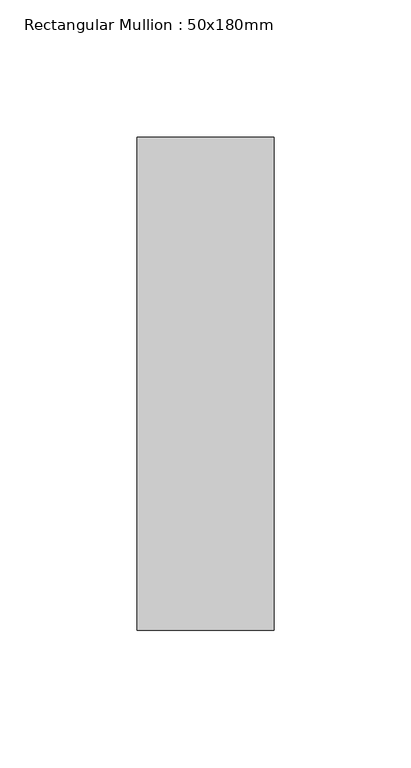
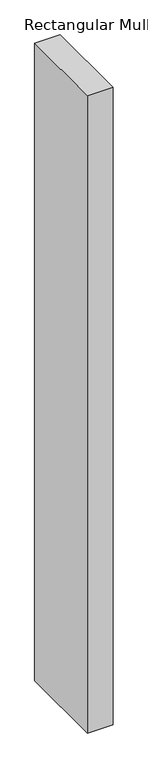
"""IFC4 building model written with IfcOpenShell, lengths in millimetres: member geometry, Rectangular Mullion : 50x180mm."""

from ifc_helpers import new_model, si_unit, frame, origin, place, context, project, spatial, polyline, outline, extrude, source, transform, mapped, element, save


def rectangular_mullion_50x180mm_35a8cdd2(model_context):
    return source(origin(), model_context, "Body", "SweptSolid", [
        extrude(outline(polyline([(25.0, 90.0), (25.0, -90.0), (-25.0, -90.0), (-25.0, 90.0), (25.0, 90.0)])), frame((0.0, 0.0, -1325.1153519), z_axis=(0.0, 0.0, 1.0), x_axis=(1.0, 0.0, 0.0)), (0.0, 0.0, 1.0), 1325.1153519),
    ])


if __name__ == "__main__":
    model = new_model("IFC4")
    model_context = context("Model", 3, world=origin())
    ifc_project = project(units=[si_unit("LENGTHUNIT", "METRE", prefix="MILLI")], contexts=[model_context])
    site = spatial("IfcSite", under=ifc_project)
    building = spatial("IfcBuilding", under=site)
    placement = place(None, origin())
    rectangular_mullion_50x180mm_shape = rectangular_mullion_50x180mm_35a8cdd2(model_context)
    element("IfcMember", 1, ObjectType="Rectangular Mullion : 50x180mm", at=placement, inside=building, context=model_context, shape_type="MappedRepresentation", body=[
        mapped(rectangular_mullion_50x180mm_shape, transform((0.0, 0.0, 0.0), x_axis=(1.0, 0.0, 0.0), y_axis=(0.0, 1.0, 0.0), z_axis=(0.0, 0.0, 1.0))),
    ])
    save(model, "model.ifc")
